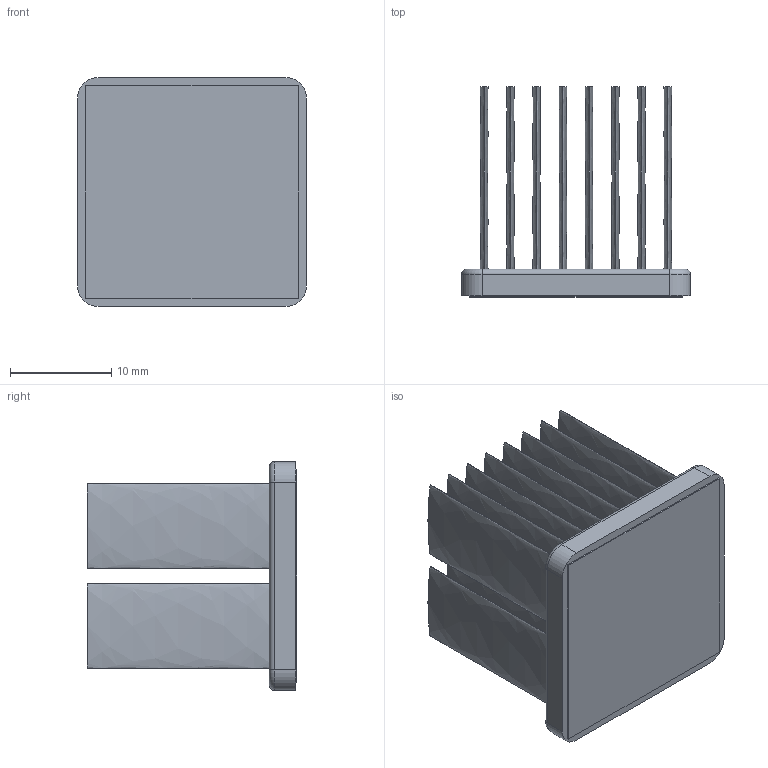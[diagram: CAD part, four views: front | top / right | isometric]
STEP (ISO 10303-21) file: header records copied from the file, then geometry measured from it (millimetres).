
FILE_DESCRIPTION (( 'STEP AP214' ), '1' );
FILE_NAME ('INM23001-21W_2.6 (NONE).STEP', '2023-02-15T19:18:14', ( '' ), ( '' ), 'SwSTEP 2.0', 'SolidWorks 2020', '' );
FILE_SCHEMA (( 'AUTOMOTIVE_DESIGN' ));
Length unit declared in the file: inch
Products named in the file (1): INM23001-21W_2.6 (NONE)
Bounding box: 22.6 x 20.73 x 22.6 mm (x, y, z)
Volume: 2814.8 mm3; surface area: 7007.7 mm2
Topology: 2 solids, 2 shells, 72 faces, 148 edges, 96 vertices
Faces by surface type: bspline 32, plane 28, cylinder 8, torus 4
Entity records: 2951 total; most frequent: CARTESIAN_POINT 733, ORIENTED_EDGE 296, DIRECTION 186, EDGE_CURVE 148, VERTEX_POINT 96, EDGE_LOOP 88, LENGTH_MEASURE_WITH_UNIT 76, UNCERTAINTY_MEASURE_WITH_UNIT 76
